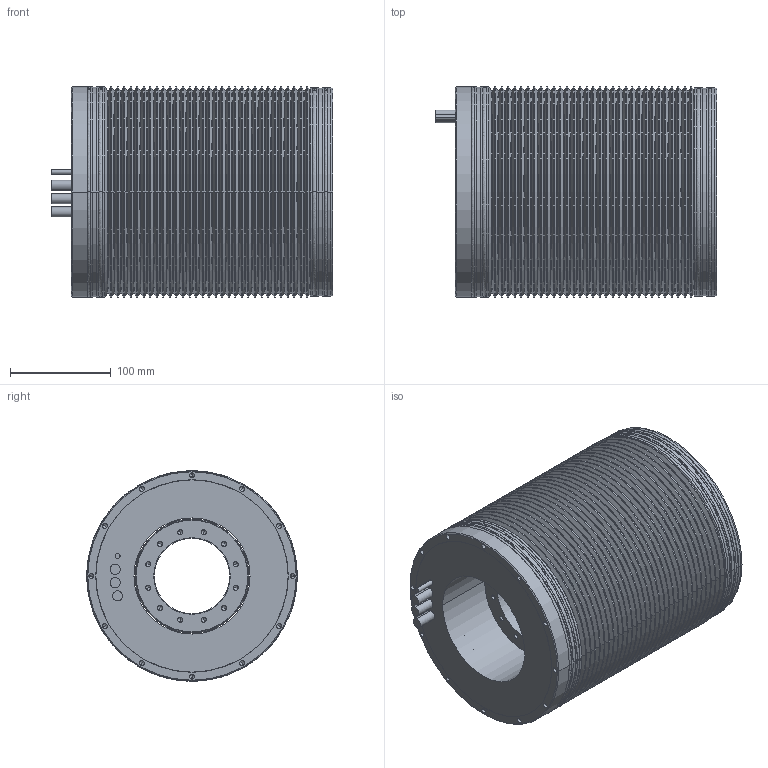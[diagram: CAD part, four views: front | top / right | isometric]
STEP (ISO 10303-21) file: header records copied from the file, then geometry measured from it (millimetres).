
FILE_DESCRIPTION((''),'2;1');
FILE_NAME('TK195-150','2017-10-26T',('stefanos'),(''),'CREO PARAMETRIC BY PTC INC, 2015480','CREO PARAMETRIC BY PTC INC, 2015480','');
FILE_SCHEMA(('CONFIG_CONTROL_DESIGN'));
Length unit declared in the file: millimetre
Products named in the file (1): TK195-150
Bounding box: 280 x 209 x 209 mm (x, y, z)
Volume: 6760183.3 mm3; surface area: 1121564.8 mm2
Topology: 9 solids, 9 shells, 557 faces, 1186 edges, 630 vertices
Faces by surface type: cylinder 268, cone 220, plane 37, torus 16, revolution 16
Entity records: 15716 total; most frequent: CARTESIAN_POINT 3765, DIRECTION 2774, ORIENTED_EDGE 2228, AXIS2_PLACEMENT_3D 1135, EDGE_CURVE 1114, VERTEX_POINT 630, EDGE_LOOP 630, CIRCLE 594
